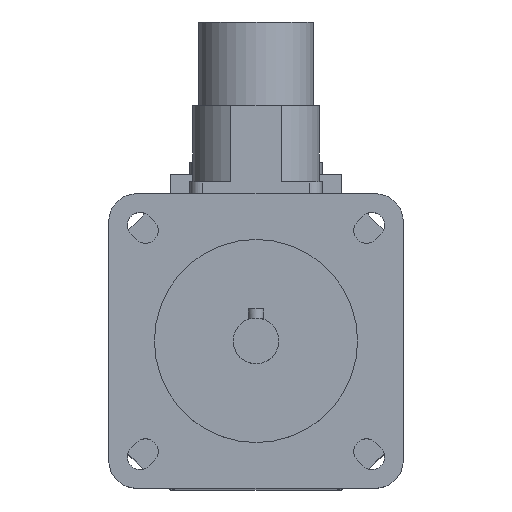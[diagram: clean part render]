
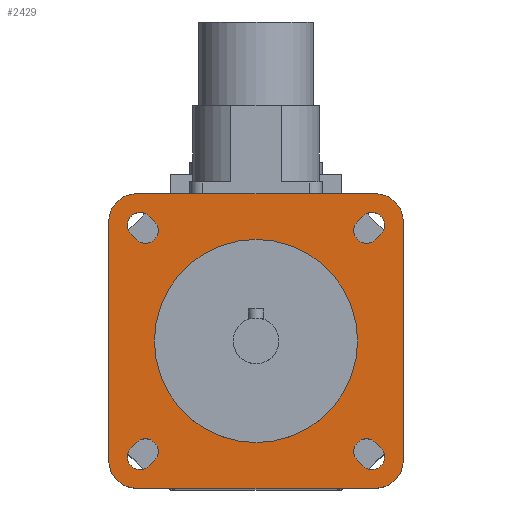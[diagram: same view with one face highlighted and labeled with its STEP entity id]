
A CAD part, top view. The second image highlights one B-rep face of the part: STEP entity #2429.
In plain terms, the highlighted planar face has unit normal (0, 0, 1).
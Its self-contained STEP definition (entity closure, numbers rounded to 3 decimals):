
#28=FACE_BOUND('',#427,.T.);
#29=FACE_BOUND('',#428,.T.);
#30=FACE_BOUND('',#429,.T.);
#31=FACE_BOUND('',#430,.T.);
#32=FACE_BOUND('',#431,.T.);
#47=CIRCLE('',#2525,20.);
#84=CIRCLE('',#2589,2.5);
#88=CIRCLE('',#2596,2.5);
#89=CIRCLE('',#2599,2.5);
#90=CIRCLE('',#2602,2.5);
#100=CIRCLE('',#2617,2.5);
#101=CIRCLE('',#2620,2.5);
#102=CIRCLE('',#2623,2.5);
#103=CIRCLE('',#2626,2.5);
#104=CIRCLE('',#2628,5.5);
#105=CIRCLE('',#2630,5.5);
#106=CIRCLE('',#2632,5.5);
#107=CIRCLE('',#2634,5.5);
#282=FACE_OUTER_BOUND('',#426,.T.);
#426=EDGE_LOOP('',(#1862,#1863,#1864,#1865,#1866,#1867,#1868,#1869));
#427=EDGE_LOOP('',(#1870));
#428=EDGE_LOOP('',(#1871,#1872,#1873,#1874));
#429=EDGE_LOOP('',(#1875,#1876,#1877,#1878));
#430=EDGE_LOOP('',(#1879,#1880,#1881,#1882));
#431=EDGE_LOOP('',(#1883,#1884,#1885,#1886));
#576=LINE('',#3759,#807);
#584=LINE('',#3783,#815);
#588=LINE('',#3793,#819);
#592=LINE('',#3803,#823);
#608=LINE('',#3854,#839);
#610=LINE('',#3860,#841);
#612=LINE('',#3866,#843);
#614=LINE('',#3872,#845);
#623=LINE('',#3900,#854);
#624=LINE('',#3901,#855);
#625=LINE('',#3902,#856);
#626=LINE('',#3903,#857);
#807=VECTOR('',#2980,1.5);
#815=VECTOR('',#3002,1.5);
#819=VECTOR('',#3012,1.5);
#823=VECTOR('',#3022,1.5);
#839=VECTOR('',#3068,1.5);
#841=VECTOR('',#3076,1.5);
#843=VECTOR('',#3084,1.5);
#845=VECTOR('',#3092,1.5);
#854=VECTOR('',#3123,47.);
#855=VECTOR('',#3124,47.);
#856=VECTOR('',#3125,47.);
#857=VECTOR('',#3126,47.);
#992=VERTEX_POINT('',#3580);
#1057=VERTEX_POINT('',#3756);
#1058=VERTEX_POINT('',#3758);
#1059=VERTEX_POINT('',#3762);
#1066=VERTEX_POINT('',#3780);
#1067=VERTEX_POINT('',#3782);
#1068=VERTEX_POINT('',#3786);
#1069=VERTEX_POINT('',#3790);
#1070=VERTEX_POINT('',#3792);
#1071=VERTEX_POINT('',#3796);
#1072=VERTEX_POINT('',#3800);
#1073=VERTEX_POINT('',#3802);
#1074=VERTEX_POINT('',#3806);
#1093=VERTEX_POINT('',#3852);
#1094=VERTEX_POINT('',#3858);
#1095=VERTEX_POINT('',#3864);
#1096=VERTEX_POINT('',#3870);
#1097=VERTEX_POINT('',#3876);
#1098=VERTEX_POINT('',#3878);
#1099=VERTEX_POINT('',#3882);
#1100=VERTEX_POINT('',#3884);
#1101=VERTEX_POINT('',#3888);
#1102=VERTEX_POINT('',#3890);
#1103=VERTEX_POINT('',#3894);
#1104=VERTEX_POINT('',#3896);
#1234=EDGE_CURVE('',#992,#992,#47,.T.);
#1320=EDGE_CURVE('',#1058,#1057,#576,.T.);
#1323=EDGE_CURVE('',#1057,#1059,#84,.T.);
#1332=EDGE_CURVE('',#1067,#1066,#584,.T.);
#1335=EDGE_CURVE('',#1066,#1068,#88,.T.);
#1337=EDGE_CURVE('',#1070,#1069,#588,.T.);
#1340=EDGE_CURVE('',#1069,#1071,#89,.T.);
#1342=EDGE_CURVE('',#1073,#1072,#592,.T.);
#1345=EDGE_CURVE('',#1072,#1074,#90,.T.);
#1368=EDGE_CURVE('',#1071,#1093,#608,.T.);
#1369=EDGE_CURVE('',#1093,#1070,#100,.T.);
#1371=EDGE_CURVE('',#1068,#1094,#610,.T.);
#1372=EDGE_CURVE('',#1094,#1067,#101,.T.);
#1374=EDGE_CURVE('',#1074,#1095,#612,.T.);
#1375=EDGE_CURVE('',#1095,#1073,#102,.T.);
#1377=EDGE_CURVE('',#1059,#1096,#614,.T.);
#1378=EDGE_CURVE('',#1096,#1058,#103,.T.);
#1380=EDGE_CURVE('',#1098,#1097,#104,.T.);
#1383=EDGE_CURVE('',#1100,#1099,#105,.T.);
#1386=EDGE_CURVE('',#1102,#1101,#106,.T.);
#1389=EDGE_CURVE('',#1104,#1103,#107,.T.);
#1391=EDGE_CURVE('',#1097,#1104,#623,.T.);
#1392=EDGE_CURVE('',#1103,#1102,#624,.T.);
#1393=EDGE_CURVE('',#1101,#1100,#625,.T.);
#1394=EDGE_CURVE('',#1099,#1098,#626,.T.);
#1862=ORIENTED_EDGE('',*,*,#1391,.T.);
#1863=ORIENTED_EDGE('',*,*,#1389,.T.);
#1864=ORIENTED_EDGE('',*,*,#1392,.T.);
#1865=ORIENTED_EDGE('',*,*,#1386,.T.);
#1866=ORIENTED_EDGE('',*,*,#1393,.T.);
#1867=ORIENTED_EDGE('',*,*,#1383,.T.);
#1868=ORIENTED_EDGE('',*,*,#1394,.T.);
#1869=ORIENTED_EDGE('',*,*,#1380,.T.);
#1870=ORIENTED_EDGE('',*,*,#1234,.T.);
#1871=ORIENTED_EDGE('',*,*,#1368,.T.);
#1872=ORIENTED_EDGE('',*,*,#1369,.T.);
#1873=ORIENTED_EDGE('',*,*,#1337,.T.);
#1874=ORIENTED_EDGE('',*,*,#1340,.T.);
#1875=ORIENTED_EDGE('',*,*,#1371,.T.);
#1876=ORIENTED_EDGE('',*,*,#1372,.T.);
#1877=ORIENTED_EDGE('',*,*,#1332,.T.);
#1878=ORIENTED_EDGE('',*,*,#1335,.T.);
#1879=ORIENTED_EDGE('',*,*,#1374,.T.);
#1880=ORIENTED_EDGE('',*,*,#1375,.T.);
#1881=ORIENTED_EDGE('',*,*,#1342,.T.);
#1882=ORIENTED_EDGE('',*,*,#1345,.T.);
#1883=ORIENTED_EDGE('',*,*,#1377,.T.);
#1884=ORIENTED_EDGE('',*,*,#1378,.T.);
#1885=ORIENTED_EDGE('',*,*,#1320,.T.);
#1886=ORIENTED_EDGE('',*,*,#1323,.T.);
#2328=PLANE('',#2635);
#2429=ADVANCED_FACE('',(#282,#28,#29,#30,#31,#32),#2328,.T.);
#2525=AXIS2_PLACEMENT_3D('',#3581,#2805,#2806);
#2589=AXIS2_PLACEMENT_3D('',#3764,#2985,#2986);
#2596=AXIS2_PLACEMENT_3D('',#3788,#3007,#3008);
#2599=AXIS2_PLACEMENT_3D('',#3798,#3017,#3018);
#2602=AXIS2_PLACEMENT_3D('',#3808,#3027,#3028);
#2617=AXIS2_PLACEMENT_3D('',#3856,#3071,#3072);
#2620=AXIS2_PLACEMENT_3D('',#3862,#3079,#3080);
#2623=AXIS2_PLACEMENT_3D('',#3868,#3087,#3088);
#2626=AXIS2_PLACEMENT_3D('',#3874,#3095,#3096);
#2628=AXIS2_PLACEMENT_3D('',#3879,#3100,#3101);
#2630=AXIS2_PLACEMENT_3D('',#3885,#3106,#3107);
#2632=AXIS2_PLACEMENT_3D('',#3891,#3112,#3113);
#2634=AXIS2_PLACEMENT_3D('',#3897,#3118,#3119);
#2635=AXIS2_PLACEMENT_3D('',#3899,#3121,#3122);
#2805=DIRECTION('center_axis',(0.,0.,-1.));
#2806=DIRECTION('ref_axis',(-1.,0.,0.));
#2980=DIRECTION('',(-0.707,-0.707,0.));
#2985=DIRECTION('center_axis',(0.,0.,-1.));
#2986=DIRECTION('ref_axis',(0.707,-0.707,0.));
#3002=DIRECTION('',(-0.707,0.707,0.));
#3007=DIRECTION('center_axis',(0.,0.,-1.));
#3008=DIRECTION('ref_axis',(-0.707,-0.707,0.));
#3012=DIRECTION('',(-0.707,-0.707,0.));
#3017=DIRECTION('center_axis',(0.,0.,-1.));
#3018=DIRECTION('ref_axis',(0.707,-0.707,0.));
#3022=DIRECTION('',(-0.707,0.707,0.));
#3027=DIRECTION('center_axis',(0.,0.,-1.));
#3028=DIRECTION('ref_axis',(-0.707,-0.707,0.));
#3068=DIRECTION('',(0.707,0.707,0.));
#3071=DIRECTION('center_axis',(0.,0.,-1.));
#3072=DIRECTION('ref_axis',(-0.707,0.707,0.));
#3076=DIRECTION('',(0.707,-0.707,0.));
#3079=DIRECTION('center_axis',(0.,0.,-1.));
#3080=DIRECTION('ref_axis',(0.707,0.707,0.));
#3084=DIRECTION('',(0.707,-0.707,0.));
#3087=DIRECTION('center_axis',(0.,0.,-1.));
#3088=DIRECTION('ref_axis',(0.707,0.707,0.));
#3092=DIRECTION('',(0.707,0.707,0.));
#3095=DIRECTION('center_axis',(0.,0.,-1.));
#3096=DIRECTION('ref_axis',(-0.707,0.707,0.));
#3100=DIRECTION('center_axis',(0.,0.,1.));
#3101=DIRECTION('ref_axis',(1.,0.,0.));
#3106=DIRECTION('center_axis',(0.,0.,1.));
#3107=DIRECTION('ref_axis',(0.,-1.,0.));
#3112=DIRECTION('center_axis',(0.,0.,1.));
#3113=DIRECTION('ref_axis',(-1.,0.,0.));
#3118=DIRECTION('center_axis',(0.,0.,1.));
#3119=DIRECTION('ref_axis',(0.,1.,0.));
#3121=DIRECTION('center_axis',(0.,0.,1.));
#3122=DIRECTION('ref_axis',(1.,0.,0.));
#3123=DIRECTION('',(-1.,0.,0.));
#3124=DIRECTION('',(0.,-1.,0.));
#3125=DIRECTION('',(1.,0.,0.));
#3126=DIRECTION('',(0.,1.,0.));
#3580=CARTESIAN_POINT('',(20.,0.,130.5));
#3581=CARTESIAN_POINT('Origin',(0.,0.,130.5));
#3756=CARTESIAN_POINT('',(-21.036,-24.572,130.5));
#3758=CARTESIAN_POINT('',(-19.976,-23.511,130.5));
#3759=CARTESIAN_POINT('',(-9.634,-13.17,130.5));
#3762=CARTESIAN_POINT('',(-24.572,-21.036,130.5));
#3764=CARTESIAN_POINT('Origin',(-22.804,-22.804,130.5));
#3780=CARTESIAN_POINT('',(-24.572,21.036,130.5));
#3782=CARTESIAN_POINT('',(-23.511,19.976,130.5));
#3783=CARTESIAN_POINT('',(-13.17,9.634,130.5));
#3786=CARTESIAN_POINT('',(-21.036,24.572,130.5));
#3788=CARTESIAN_POINT('Origin',(-22.804,22.804,130.5));
#3790=CARTESIAN_POINT('',(23.511,19.976,130.5));
#3792=CARTESIAN_POINT('',(24.572,21.036,130.5));
#3793=CARTESIAN_POINT('',(12.64,9.104,130.5));
#3796=CARTESIAN_POINT('',(19.976,23.511,130.5));
#3798=CARTESIAN_POINT('Origin',(21.744,21.744,130.5));
#3800=CARTESIAN_POINT('',(19.976,-23.511,130.5));
#3802=CARTESIAN_POINT('',(21.036,-24.572,130.5));
#3803=CARTESIAN_POINT('',(9.104,-12.64,130.5));
#3806=CARTESIAN_POINT('',(23.511,-19.976,130.5));
#3808=CARTESIAN_POINT('Origin',(21.744,-21.744,130.5));
#3852=CARTESIAN_POINT('',(21.036,24.572,130.5));
#3854=CARTESIAN_POINT('',(9.634,13.17,130.5));
#3856=CARTESIAN_POINT('Origin',(22.804,22.804,130.5));
#3858=CARTESIAN_POINT('',(-19.976,23.511,130.5));
#3860=CARTESIAN_POINT('',(-9.104,12.64,130.5));
#3862=CARTESIAN_POINT('Origin',(-21.744,21.744,130.5));
#3864=CARTESIAN_POINT('',(24.572,-21.036,130.5));
#3866=CARTESIAN_POINT('',(13.17,-9.634,130.5));
#3868=CARTESIAN_POINT('Origin',(22.804,-22.804,130.5));
#3870=CARTESIAN_POINT('',(-23.511,-19.976,130.5));
#3872=CARTESIAN_POINT('',(-12.64,-9.104,130.5));
#3874=CARTESIAN_POINT('Origin',(-21.744,-21.744,130.5));
#3876=CARTESIAN_POINT('',(23.5,29.,130.5));
#3878=CARTESIAN_POINT('',(29.,23.5,130.5));
#3879=CARTESIAN_POINT('Origin',(23.5,23.5,130.5));
#3882=CARTESIAN_POINT('',(29.,-23.5,130.5));
#3884=CARTESIAN_POINT('',(23.5,-29.,130.5));
#3885=CARTESIAN_POINT('Origin',(23.5,-23.5,130.5));
#3888=CARTESIAN_POINT('',(-23.5,-29.,130.5));
#3890=CARTESIAN_POINT('',(-29.,-23.5,130.5));
#3891=CARTESIAN_POINT('Origin',(-23.5,-23.5,130.5));
#3894=CARTESIAN_POINT('',(-29.,23.5,130.5));
#3896=CARTESIAN_POINT('',(-23.5,29.,130.5));
#3897=CARTESIAN_POINT('Origin',(-23.5,23.5,130.5));
#3899=CARTESIAN_POINT('Origin',(0.,0.,
130.5));
#3900=CARTESIAN_POINT('',(23.5,29.,130.5));
#3901=CARTESIAN_POINT('',(-29.,23.5,130.5));
#3902=CARTESIAN_POINT('',(-23.5,-29.,130.5));
#3903=CARTESIAN_POINT('',(29.,-23.5,130.5));
